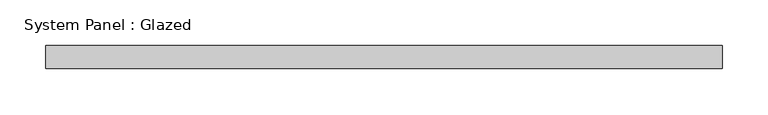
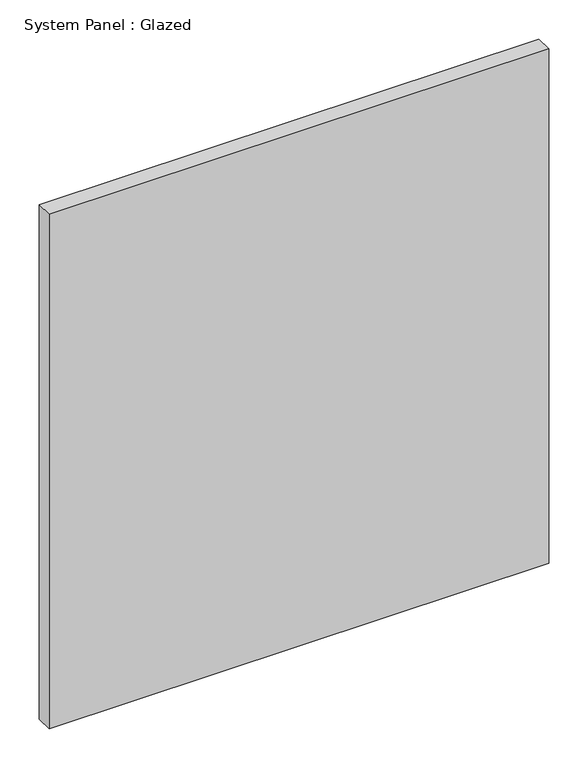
"""IFC4 building model written with IfcOpenShell, lengths in millimetres: plate geometry, System Panel : Glazed."""

from ifc_helpers import new_model, si_unit, origin, origin_with_axes, place, context, project, spatial, polyline, outline, extrude, source, transform, mapped, element, save


def system_panel_glazed_d0354de1(model_context):
    return source(origin(), model_context, "Body", "SweptSolid", [
        extrude(outline(polyline([(367.5, 24.5), (-367.5, 24.5), (-367.5, 49.5), (367.5, 49.5), (367.5, 24.5)])), origin_with_axes(), (0.0, 0.0, 1.0), 800.0),
    ])


if __name__ == "__main__":
    model = new_model("IFC4")
    model_context = context("Model", 3, world=origin())
    ifc_project = project(units=[si_unit("LENGTHUNIT", "METRE", prefix="MILLI")], contexts=[model_context])
    site = spatial("IfcSite", under=ifc_project)
    building = spatial("IfcBuilding", under=site)
    placement = place(None, origin())
    system_panel_glazed_shape = system_panel_glazed_d0354de1(model_context)
    element("IfcPlate", 1, ObjectType="System Panel : Glazed", at=placement, inside=building, context=model_context, shape_type="MappedRepresentation", body=[
        mapped(system_panel_glazed_shape, transform((0.0, 0.0, 0.0), x_axis=(1.0, 0.0, 0.0), y_axis=(0.0, 1.0, 0.0), z_axis=(0.0, 0.0, 1.0))),
    ])
    save(model, "model.ifc")
